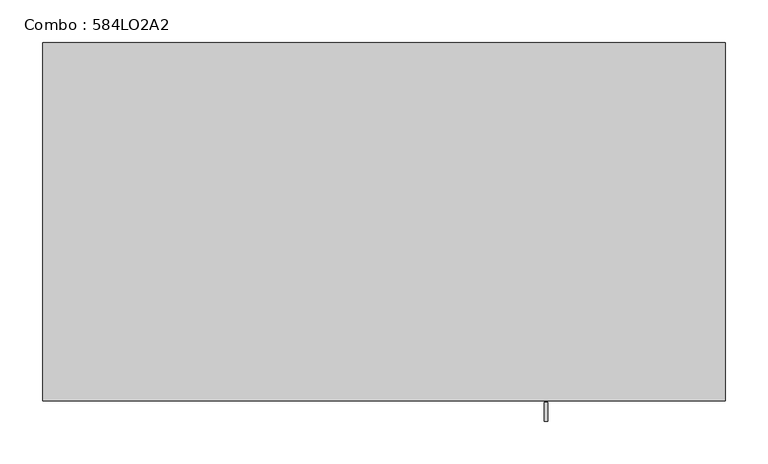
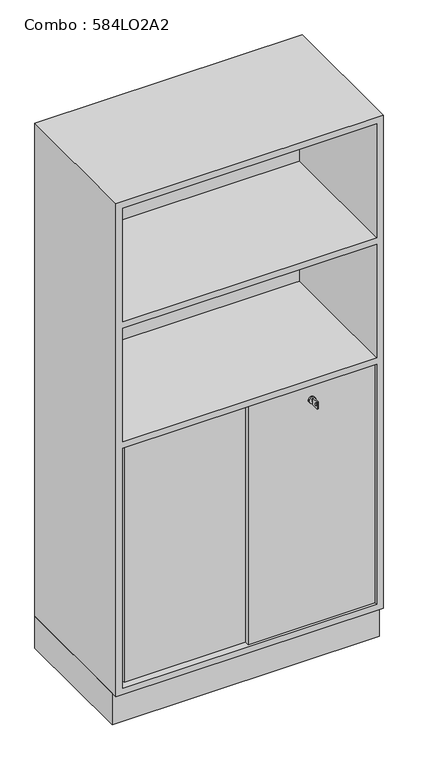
"""IFC4 building model written with IfcOpenShell, lengths in millimetres: furniture geometry, Combo : 584LO2A2."""

from ifc_helpers import new_model, si_unit, point, frame, frame_2d, origin, origin_with_axes, place, context, project, spatial, polyline, circle_curve, trimmed, segment, composite_curve, outline, extrude, faceted_brep, source, transform, mapped, element, save


def combo_584lo2a2_7451a039(model_context):
    return source(origin(), model_context, "Body", "SolidModel", [
        extrude(outline(polyline([(-400.0, -400.0), (-400.0, 0.0), (400.0, 0.0), (400.0, -400.0), (-400.0, -400.0)])), origin_with_axes(), (0.0, 0.0, 1.0), 100.0),
        extrude(outline(composite_curve([segment(trimmed(circle_curve(frame_2d((830.0, 190.0)), 10.0), [point((830.0, 180.0))], [point((830.0, 200.0))], False, "CARTESIAN"), True, "CONTINUOUS"), segment(trimmed(circle_curve(frame_2d((830.0, 190.0)), 10.0), [point((830.0, 200.0))], [point((830.0, 180.0))], False, "CARTESIAN"), True, "CONTINUOUS")], self_intersect=False)), frame((0.0, -416.0, 0.0), z_axis=(0.0, 1.0, 0.0), x_axis=(0.0, 0.0, 1.0)), (0.0, 0.0, 1.0), 4.0),
        extrude(outline(polyline([(-444.0, 819.014113), (-444.0, 841.0), (-422.0, 841.0), (-422.0, 819.014113), (-444.0, 819.014113)]), holes=[composite_curve([segment(trimmed(circle_curve(frame_2d((-437.75, 830.0070565)), 3.2230706), [point((-437.75, 833.2301271))], [point((-437.75, 826.7839859))], True, "CARTESIAN"), True, "CONTINUOUS"), segment(trimmed(circle_curve(frame_2d((-437.75, 830.0070565)), 3.2230706), [point((-437.75, 826.7839859))], [point((-437.75, 833.2301271))], True, "CARTESIAN"), True, "CONTINUOUS")], self_intersect=False)]), frame((188.0, 0.0, 0.0), z_axis=(1.0, 0.0, 0.0), x_axis=(0.0, 1.0, 0.0)), (0.0, 0.0, 1.0), 4.0416064),
        extrude(outline(polyline([(191.0416064, -422.0), (189.0, -422.0), (189.0, -416.0), (191.0416064, -416.0), (191.0416064, -422.0)])), frame((0.0, 0.0, 826.014113), z_axis=(0.0, 0.0, 1.0), x_axis=(1.0, 0.0, 0.0)), (0.0, 0.0, 1.0), 7.985887),
        extrude(outline(polyline([(-378.0478528, -398.0), (-380.0, -398.0), (-380.0, -386.0), (380.0, -386.0), (380.0, -412.0), (0.0, -412.0), (0.0, -400.0), (8.9521472, -400.0), (8.9521472, -398.0), (-361.0478528, -398.0), (-363.0478528, -398.0), (-363.0478528, -388.0), (-378.0478528, -388.0), (-378.0478528, -398.0)])), frame((0.0, 0.0, 120.0), z_axis=(0.0, 0.0, 1.0), x_axis=(1.0, 0.0, 0.0)), (0.0, 0.0, 1.0), 760.0),
        faceted_brep([(400.0, 0.0, 1660.0), (-400.0, 0.0, 1660.0), (-400.0, -420.0, 1660.0), (400.0, -420.0, 1660.0), (-400.0, 0.0, 100.0), (400.0, 0.0, 100.0), (400.0, -420.0, 100.0), (-400.0, -420.0, 100.0), (-380.0, -420.0, 880.0), (380.0, -420.0, 880.0), (380.0, -420.0, 120.0), (-380.0, -420.0, 120.0), (380.0, -420.0, 1260.0), (380.0, -420.0, 900.0), (-380.0, -420.0, 900.0), (-380.0, -420.0, 1260.0), (380.0, -420.0, 1640.0), (380.0, -420.0, 1280.0), (-380.0, -420.0, 1280.0), (-380.0, -420.0, 1640.0), (-380.0, -386.0, 880.0), (380.0, -386.0, 880.0), (-380.0, -386.0, 120.0), (380.0, -386.0, 120.0), (380.0, -20.0, 900.0), (380.0, -20.0, 1260.0), (-380.0, -20.0, 1260.0), (-380.0, -20.0, 900.0), (380.0, -20.0, 1280.0), (380.0, -20.0, 1640.0), (-380.0, -20.0, 1640.0), (-380.0, -20.0, 1280.0)], [[[0, 1, 2, 3]], [[4, 5, 6, 7]], [[1, 0, 5, 4]], [[2, 1, 4, 7]], [[3, 2, 7, 6], [8, 9, 10, 11], [12, 13, 14, 15], [16, 17, 18, 19]], [[0, 3, 6, 5]], [[20, 21, 9, 8]], [[22, 11, 10, 23]], [[9, 21, 23, 10]], [[20, 8, 11, 22]], [[21, 20, 22, 23]], [[24, 25, 26, 27]], [[25, 24, 13, 12]], [[26, 25, 12, 15]], [[27, 26, 15, 14]], [[24, 27, 14, 13]], [[28, 29, 30, 31]], [[29, 28, 17, 16]], [[30, 29, 16, 19]], [[31, 30, 19, 18]], [[28, 31, 18, 17]]]),
    ])


if __name__ == "__main__":
    model = new_model("IFC4")
    model_context = context("Model", 3, world=origin())
    ifc_project = project(units=[si_unit("LENGTHUNIT", "METRE", prefix="MILLI")], contexts=[model_context])
    site = spatial("IfcSite", under=ifc_project)
    building = spatial("IfcBuilding", under=site)
    placement = place(None, origin())
    combo_584lo2a2_shape = combo_584lo2a2_7451a039(model_context)
    element("IfcFurniture", 1, ObjectType="Combo : 584LO2A2", at=placement, inside=building, context=model_context, shape_type="MappedRepresentation", body=[
        mapped(combo_584lo2a2_shape, transform((0.0, 0.0, 0.0), x_axis=(1.0, 0.0, 0.0), y_axis=(0.0, 1.0, 0.0), z_axis=(0.0, 0.0, 1.0))),
    ])
    save(model, "model.ifc")
